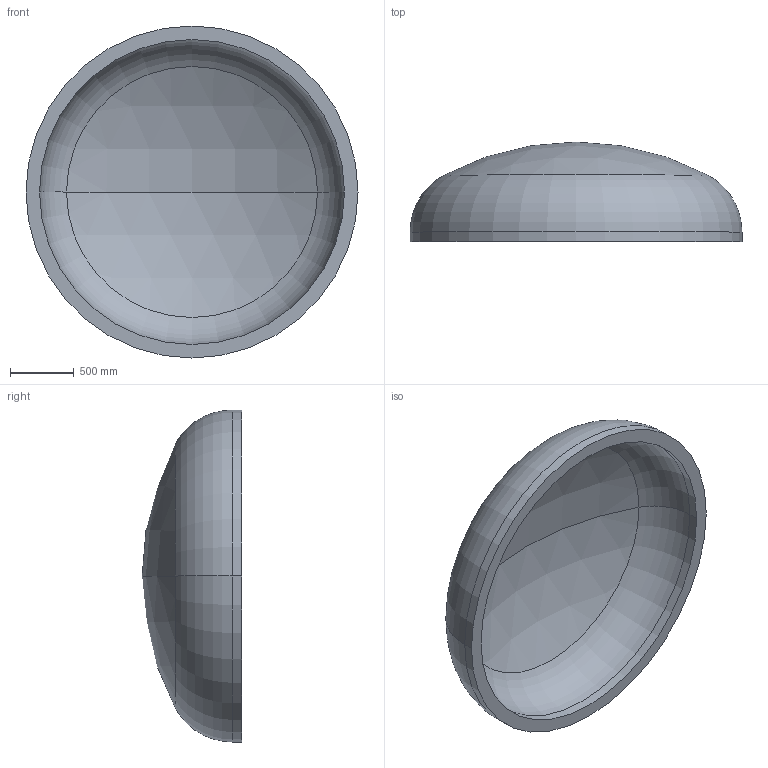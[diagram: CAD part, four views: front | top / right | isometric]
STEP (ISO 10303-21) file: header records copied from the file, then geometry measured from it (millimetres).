
FILE_DESCRIPTION (( 'STEP AP203' ), '1' );
FILE_NAME ('DIN 28013 Korbbogenform_-_Boden DIN 28013 - 2600 x 75 - I - s=106.step', '2016-07-01T16:32:56', ( '' ), ( '' ), 'SwSTEP 2.0', 'SolidWorks 2013', '' );
FILE_SCHEMA (( 'CONFIG_CONTROL_DESIGN' ));
Length unit declared in the file: millimetre
Products named in the file (1): DIN 28013 Korbbogenform_-_Boden DIN 28013 - 2600 x 75 - I - s=106
Bounding box: 2600 x 780.47 x 2600 mm (x, y, z)
Volume: 801508098.4 mm3; surface area: 15976846.3 mm2
Topology: 1 solids, 1 shells, 13 faces, 24 edges, 14 vertices
Faces by surface type: torus 4, cylinder 4, sphere 4, plane 1
Entity records: 407 total; most frequent: DIRECTION 72, CARTESIAN_POINT 52, ORIENTED_EDGE 48, AXIS2_PLACEMENT_3D 34, EDGE_CURVE 24, CIRCLE 20, VERTEX_POINT 14, EDGE_LOOP 14
